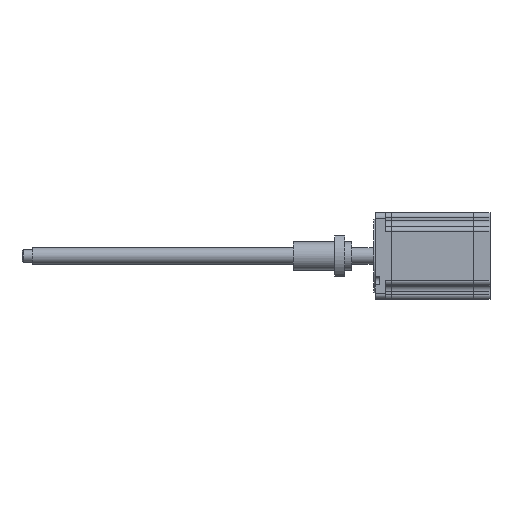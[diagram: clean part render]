
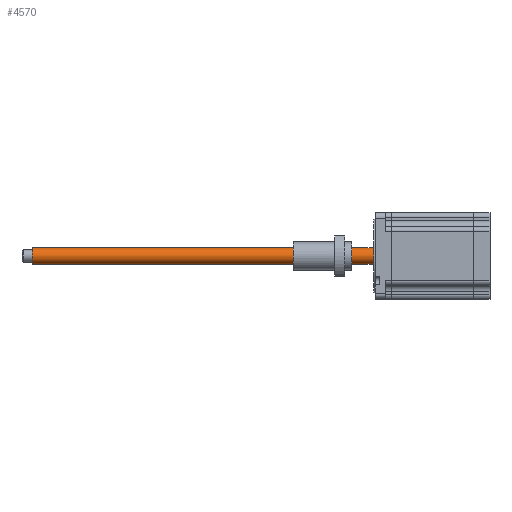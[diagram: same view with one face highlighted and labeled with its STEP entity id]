
A CAD part, left-side view. The second image highlights one B-rep face of the part: STEP entity #4570.
In plain terms, the highlighted cylindrical face has radius 8 mm (diameter 16 mm), a partial arc.
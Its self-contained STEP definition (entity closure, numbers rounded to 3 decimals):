
#293 = CIRCLE ( 'NONE', #1642, 8. ) ;
#379 = EDGE_CURVE ( 'NONE', #3375, #2617, #3597, .T. ) ;
#582 = CARTESIAN_POINT ( 'NONE',  ( 0., 360., -8. ) ) ;
#741 = EDGE_CURVE ( 'NONE', #4481, #2617, #293, .T. ) ;
#1124 = VERTEX_POINT ( 'NONE', #4976 ) ;
#1199 = CARTESIAN_POINT ( 'NONE',  ( 0., 350., 0. ) ) ;
#1218 = ORIENTED_EDGE ( 'NONE', *, *, #3984, .T. ) ;
#1310 = LINE ( 'NONE', #582, #5169 ) ;
#1493 = FACE_OUTER_BOUND ( 'NONE', #4644, .T. ) ;
#1633 = DIRECTION ( 'NONE',  ( 0., 1., 0. ) ) ;
#1642 = AXIS2_PLACEMENT_3D ( 'NONE', #5809, #1971, #6285 ) ;
#1664 = DIRECTION ( 'NONE',  ( 0., 0., 1. ) ) ;
#1971 = DIRECTION ( 'NONE',  ( 0., 1., 0. ) ) ;
#2617 = VERTEX_POINT ( 'NONE', #5388 ) ;
#2853 = ORIENTED_EDGE ( 'NONE', *, *, #4480, .F. ) ;
#3375 = VERTEX_POINT ( 'NONE', #6006 ) ;
#3597 = LINE ( 'NONE', #4874, #5574 ) ;
#3721 = CYLINDRICAL_SURFACE ( 'NONE', #5569, 8. ) ;
#3752 = ORIENTED_EDGE ( 'NONE', *, *, #741, .T. ) ;
#3984 = EDGE_CURVE ( 'NONE', #1124, #4481, #1310, .T. ) ;
#4070 = CIRCLE ( 'NONE', #5195, 8. ) ;
#4353 = DIRECTION ( 'NONE',  ( 0., -1., 0. ) ) ;
#4480 = EDGE_CURVE ( 'NONE', #1124, #3375, #4070, .T. ) ;
#4481 = VERTEX_POINT ( 'NONE', #6444 ) ;
#4570 = ADVANCED_FACE ( 'NONE', ( #1493 ), #3721, .T. ) ;
#4644 = EDGE_LOOP ( 'NONE', ( #6817, #2853, #1218, #3752 ) ) ;
#4874 = CARTESIAN_POINT ( 'NONE',  ( 0., 360., 8. ) ) ;
#4976 = CARTESIAN_POINT ( 'NONE',  ( 0., 350., -8. ) ) ;
#5107 = DIRECTION ( 'NONE',  ( 0., -1., 0. ) ) ;
#5149 = DIRECTION ( 'NONE',  ( 0., -1., 0. ) ) ;
#5169 = VECTOR ( 'NONE', #5107, 1000. ) ;
#5195 = AXIS2_PLACEMENT_3D ( 'NONE', #1199, #1633, #1664 ) ;
#5298 = DIRECTION ( 'NONE',  ( 0., 0., -1. ) ) ;
#5388 = CARTESIAN_POINT ( 'NONE',  ( 0., 10., 8. ) ) ;
#5569 = AXIS2_PLACEMENT_3D ( 'NONE', #5993, #5149, #5298 ) ;
#5574 = VECTOR ( 'NONE', #4353, 1000. ) ;
#5809 = CARTESIAN_POINT ( 'NONE',  ( 0., 10., 0. ) ) ;
#5993 = CARTESIAN_POINT ( 'NONE',  ( 0., 360., 0. ) ) ;
#6006 = CARTESIAN_POINT ( 'NONE',  ( 0., 350., 8. ) ) ;
#6285 = DIRECTION ( 'NONE',  ( 0., 0., 1. ) ) ;
#6444 = CARTESIAN_POINT ( 'NONE',  ( 0., 10., -8. ) ) ;
#6817 = ORIENTED_EDGE ( 'NONE', *, *, #379, .F. ) ;
